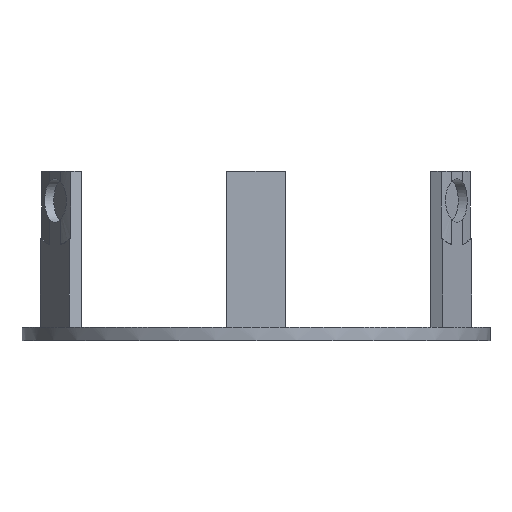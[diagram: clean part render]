
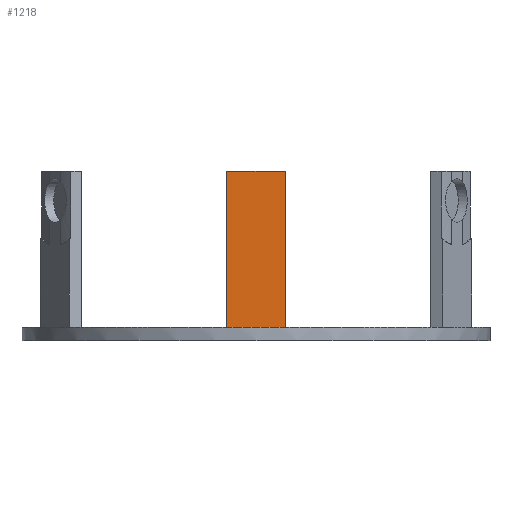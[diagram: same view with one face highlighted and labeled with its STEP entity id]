
A CAD part, front view. The second image highlights one B-rep face of the part: STEP entity #1218.
In plain terms, the highlighted planar face has unit normal (0, -1, 0).
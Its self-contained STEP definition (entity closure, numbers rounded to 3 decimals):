
#94 = PLANE('',#95);
#95 = AXIS2_PLACEMENT_3D('',#96,#97,#98);
#96 = CARTESIAN_POINT('',(0.,0.,
    0.05));
#97 = DIRECTION('',(0.,0.,1.));
#98 = DIRECTION('',(1.,0.,-0.));
#144 = VERTEX_POINT('',#145);
#145 = CARTESIAN_POINT('',(-5.5,41.35,0.05));
#159 = PLANE('',#160);
#160 = AXIS2_PLACEMENT_3D('',#161,#162,#163);
#161 = CARTESIAN_POINT('',(-5.5,41.35,0.05));
#162 = DIRECTION('',(-1.,0.,0.));
#163 = DIRECTION('',(0.,0.,1.));
#171 = EDGE_CURVE('',#172,#144,#174,.T.);
#172 = VERTEX_POINT('',#173);
#173 = CARTESIAN_POINT('',(5.5,41.35,0.05));
#174 = SURFACE_CURVE('',#175,(#179,#186),.PCURVE_S1.);
#175 = LINE('',#176,#177);
#176 = CARTESIAN_POINT('',(5.5,41.35,0.05));
#177 = VECTOR('',#178,1.);
#178 = DIRECTION('',(-1.,0.,0.));
#179 = PCURVE('',#94,#180);
#180 = DEFINITIONAL_REPRESENTATION('',(#181),#185);
#181 = LINE('',#182,#183);
#182 = CARTESIAN_POINT('',(5.5,41.35));
#183 = VECTOR('',#184,1.);
#184 = DIRECTION('',(-1.,0.));
#185 = ( GEOMETRIC_REPRESENTATION_CONTEXT(2) 
PARAMETRIC_REPRESENTATION_CONTEXT() REPRESENTATION_CONTEXT('2D SPACE',''
  ) );
#186 = PCURVE('',#187,#192);
#187 = PLANE('',#188);
#188 = AXIS2_PLACEMENT_3D('',#189,#190,#191);
#189 = CARTESIAN_POINT('',(5.5,41.35,0.05));
#190 = DIRECTION('',(0.,1.,0.));
#191 = DIRECTION('',(0.,0.,1.));
#192 = DEFINITIONAL_REPRESENTATION('',(#193),#197);
#193 = LINE('',#194,#195);
#194 = CARTESIAN_POINT('',(0.,0.));
#195 = VECTOR('',#196,1.);
#196 = DIRECTION('',(0.,-1.));
#197 = ( GEOMETRIC_REPRESENTATION_CONTEXT(2) 
PARAMETRIC_REPRESENTATION_CONTEXT() REPRESENTATION_CONTEXT('2D SPACE',''
  ) );
#215 = PLANE('',#216);
#216 = AXIS2_PLACEMENT_3D('',#217,#218,#219);
#217 = CARTESIAN_POINT('',(5.5,41.35,0.05));
#218 = DIRECTION('',(-1.,0.,0.));
#219 = DIRECTION('',(0.,0.,1.));
#1089 = EDGE_CURVE('',#144,#1090,#1092,.T.);
#1090 = VERTEX_POINT('',#1091);
#1091 = CARTESIAN_POINT('',(-5.5,41.35,32.05));
#1092 = SURFACE_CURVE('',#1093,(#1097,#1104),.PCURVE_S1.);
#1093 = LINE('',#1094,#1095);
#1094 = CARTESIAN_POINT('',(-5.5,41.35,0.05));
#1095 = VECTOR('',#1096,1.);
#1096 = DIRECTION('',(0.,0.,1.));
#1097 = PCURVE('',#159,#1098);
#1098 = DEFINITIONAL_REPRESENTATION('',(#1099),#1103);
#1099 = LINE('',#1100,#1101);
#1100 = CARTESIAN_POINT('',(0.,0.));
#1101 = VECTOR('',#1102,1.);
#1102 = DIRECTION('',(1.,0.));
#1103 = ( GEOMETRIC_REPRESENTATION_CONTEXT(2) 
PARAMETRIC_REPRESENTATION_CONTEXT() REPRESENTATION_CONTEXT('2D SPACE',''
  ) );
#1104 = PCURVE('',#187,#1105);
#1105 = DEFINITIONAL_REPRESENTATION('',(#1106),#1110);
#1106 = LINE('',#1107,#1108);
#1107 = CARTESIAN_POINT('',(0.,-11.));
#1108 = VECTOR('',#1109,1.);
#1109 = DIRECTION('',(1.,0.));
#1110 = ( GEOMETRIC_REPRESENTATION_CONTEXT(2) 
PARAMETRIC_REPRESENTATION_CONTEXT() REPRESENTATION_CONTEXT('2D SPACE',''
  ) );
#1128 = PLANE('',#1129);
#1129 = AXIS2_PLACEMENT_3D('',#1130,#1131,#1132);
#1130 = CARTESIAN_POINT('',(5.5,41.35,32.05));
#1131 = DIRECTION('',(0.,0.,1.));
#1132 = DIRECTION('',(0.,1.,0.));
#1218 = ADVANCED_FACE('',(#1219),#187,.F.);
#1219 = FACE_BOUND('',#1220,.F.);
#1220 = EDGE_LOOP('',(#1221,#1244,#1245,#1246));
#1221 = ORIENTED_EDGE('',*,*,#1222,.F.);
#1222 = EDGE_CURVE('',#172,#1223,#1225,.T.);
#1223 = VERTEX_POINT('',#1224);
#1224 = CARTESIAN_POINT('',(5.5,41.35,32.05));
#1225 = SURFACE_CURVE('',#1226,(#1230,#1237),.PCURVE_S1.);
#1226 = LINE('',#1227,#1228);
#1227 = CARTESIAN_POINT('',(5.5,41.35,0.05));
#1228 = VECTOR('',#1229,1.);
#1229 = DIRECTION('',(0.,0.,1.));
#1230 = PCURVE('',#187,#1231);
#1231 = DEFINITIONAL_REPRESENTATION('',(#1232),#1236);
#1232 = LINE('',#1233,#1234);
#1233 = CARTESIAN_POINT('',(0.,0.));
#1234 = VECTOR('',#1235,1.);
#1235 = DIRECTION('',(1.,0.));
#1236 = ( GEOMETRIC_REPRESENTATION_CONTEXT(2) 
PARAMETRIC_REPRESENTATION_CONTEXT() REPRESENTATION_CONTEXT('2D SPACE',''
  ) );
#1237 = PCURVE('',#215,#1238);
#1238 = DEFINITIONAL_REPRESENTATION('',(#1239),#1243);
#1239 = LINE('',#1240,#1241);
#1240 = CARTESIAN_POINT('',(0.,0.));
#1241 = VECTOR('',#1242,1.);
#1242 = DIRECTION('',(1.,0.));
#1243 = ( GEOMETRIC_REPRESENTATION_CONTEXT(2) 
PARAMETRIC_REPRESENTATION_CONTEXT() REPRESENTATION_CONTEXT('2D SPACE',''
  ) );
#1244 = ORIENTED_EDGE('',*,*,#171,.T.);
#1245 = ORIENTED_EDGE('',*,*,#1089,.T.);
#1246 = ORIENTED_EDGE('',*,*,#1247,.F.);
#1247 = EDGE_CURVE('',#1223,#1090,#1248,.T.);
#1248 = SURFACE_CURVE('',#1249,(#1253,#1260),.PCURVE_S1.);
#1249 = LINE('',#1250,#1251);
#1250 = CARTESIAN_POINT('',(5.5,41.35,32.05));
#1251 = VECTOR('',#1252,1.);
#1252 = DIRECTION('',(-1.,0.,0.));
#1253 = PCURVE('',#187,#1254);
#1254 = DEFINITIONAL_REPRESENTATION('',(#1255),#1259);
#1255 = LINE('',#1256,#1257);
#1256 = CARTESIAN_POINT('',(32.,0.));
#1257 = VECTOR('',#1258,1.);
#1258 = DIRECTION('',(0.,-1.));
#1259 = ( GEOMETRIC_REPRESENTATION_CONTEXT(2) 
PARAMETRIC_REPRESENTATION_CONTEXT() REPRESENTATION_CONTEXT('2D SPACE',''
  ) );
#1260 = PCURVE('',#1128,#1261);
#1261 = DEFINITIONAL_REPRESENTATION('',(#1262),#1266);
#1262 = LINE('',#1263,#1264);
#1263 = CARTESIAN_POINT('',(0.,0.));
#1264 = VECTOR('',#1265,1.);
#1265 = DIRECTION('',(0.,1.));
#1266 = ( GEOMETRIC_REPRESENTATION_CONTEXT(2) 
PARAMETRIC_REPRESENTATION_CONTEXT() REPRESENTATION_CONTEXT('2D SPACE',''
  ) );
